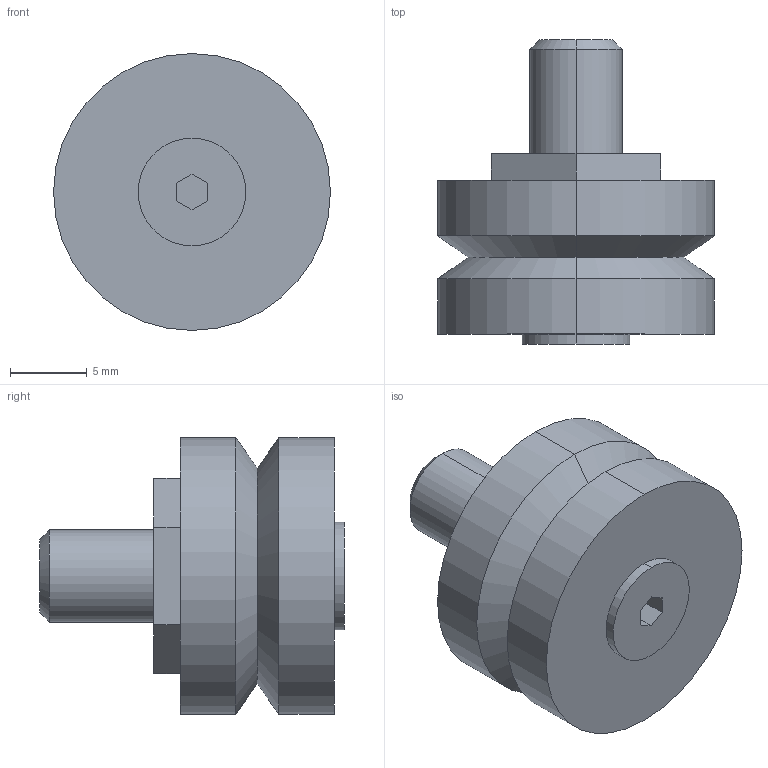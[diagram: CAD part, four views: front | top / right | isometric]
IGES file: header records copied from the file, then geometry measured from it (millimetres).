
Start section: 3D InterOp IGES (Version 21 0 1), Spatial Corp. Copyright (c) 1999-2007.
Global section: file name: RBHJ18CNS.igs; native system: Spatial Corp.; preprocessor: 3D InterOp GENERIC/IGES 3.0; author: Noname; organization: Noname; date: 20220627.165136; units: millimetre
Bounding box: 18 x 19.8 x 18 mm (x, y, z)
Surface area: 1402.4 mm2 (no closed solid volume)
Topology: 0 solids, 0 shells, 32 faces, 140 edges, 140 vertices
Faces by surface type: extrusion 18, revolution 14
